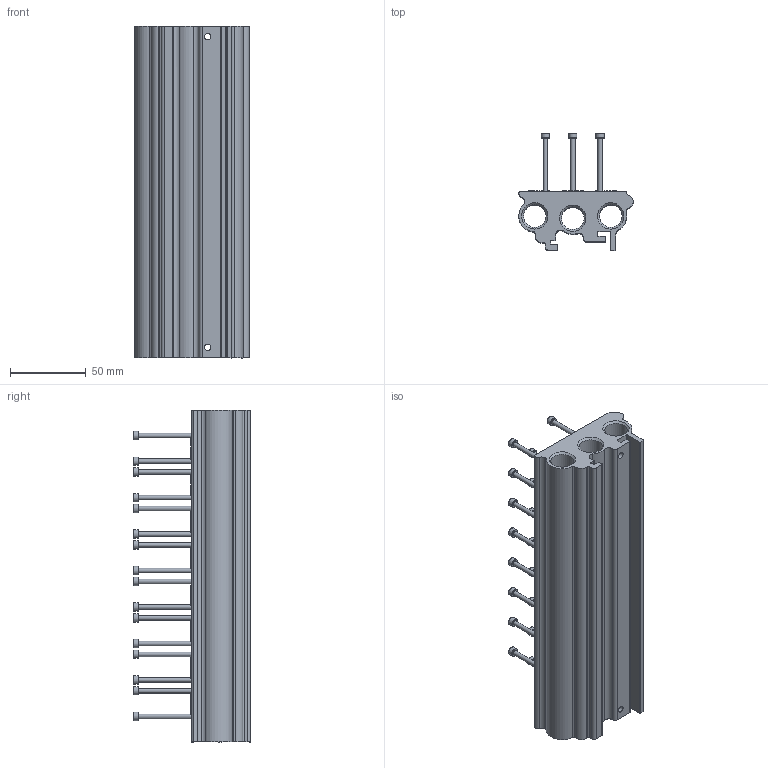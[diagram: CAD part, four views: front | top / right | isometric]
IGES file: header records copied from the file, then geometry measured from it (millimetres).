
Start section: SolidWorks IGES file using analytic representation for surfaces
Global section: file name: K:\Disegni Esecutivi\Elettrovalvole\ASSIEMI_IGS\01VB010008A.IGS; native system: SolidWorks 2012; preprocessor: SolidWorks 2012; author: cad05; date: 131004.181301; units: millimetre
Bounding box: 75.25 x 76.9 x 218.6 mm (x, y, z)
Surface area: 88639.2 mm2 (no closed solid volume)
Topology: 0 solids, 0 shells, 530 faces, 2468 edges, 2058 vertices
Faces by surface type: revolution 288, bspline 242
